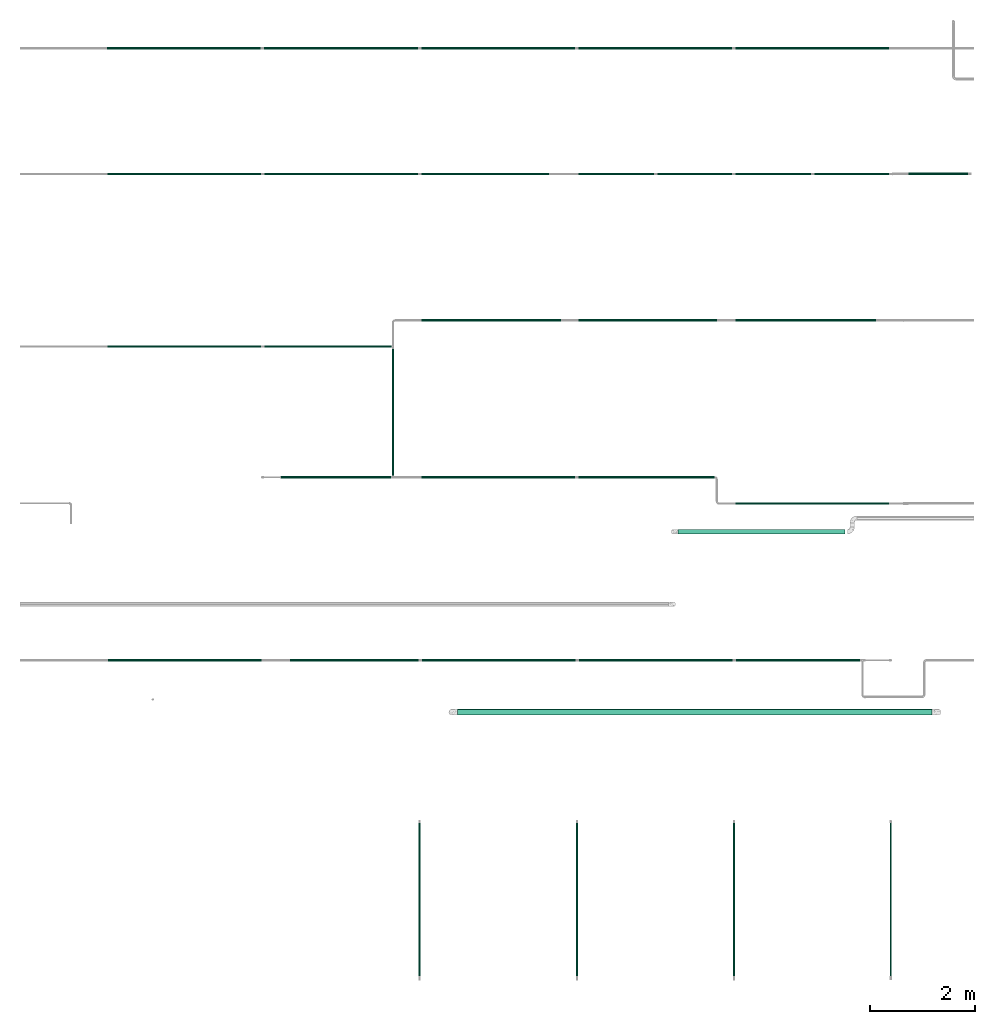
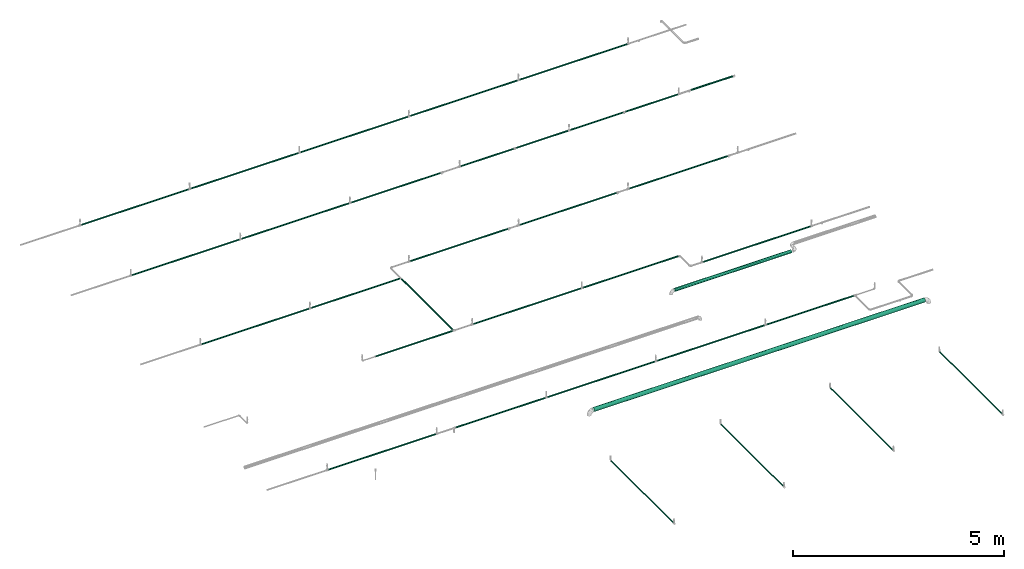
# One storey, part 1 of 94: 34 flow segments.
"""IFC2X3 building model written with IfcOpenShell, lengths in millimetres."""

from ifc_helpers import new_model, entity, si_unit, converted_unit, derived_unit, direction, frame, origin_with_axes, origin_2d_with_axis, place, context, subcontext, project, spatial, hollow_circle, extrude, source, transform, mapped, type_object, element, save


model = new_model("IFC2X3")

# Units and contexts
model_context = context("Model", 3, precision=0.01, world=frame((0.0, 4.29681676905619e-09, 0.0)), true_north=direction((4.01073788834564e-13, 1.0)))
plan_context = context("Plan", 3, precision=0.01, world=frame((0.0, 4.29681676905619e-09, 0.0)), true_north=direction((4.01073788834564e-13, 1.0)))
body_context = subcontext(model_context, "Body", "Model", "MODEL_VIEW")
ifc_project = project(units=[converted_unit("PLANEANGLEUNIT", "DEGREE", entity("IfcPositiveLengthMeasure", 0.0174532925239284), si_unit("PLANEANGLEUNIT", "RADIAN"), dimensions=[0, 0, 0, 0, 0, 0, 0]), si_unit("AREAUNIT", "SQUARE_METRE"), si_unit("LENGTHUNIT", "METRE", prefix="MILLI"), si_unit("MASSUNIT", "GRAM", prefix="KILO"), si_unit("POWERUNIT", "WATT"), si_unit("PRESSUREUNIT", "PASCAL"), si_unit("FORCEUNIT", "NEWTON", prefix="KILO"), si_unit("ELECTRICCURRENTUNIT", "AMPERE"), si_unit("THERMODYNAMICTEMPERATUREUNIT", "DEGREE_CELSIUS"), si_unit("TIMEUNIT", "SECOND"), si_unit("VOLUMEUNIT", "CUBIC_METRE"), derived_unit("LINEARVELOCITYUNIT", [(si_unit("LENGTHUNIT", "METRE"), 1), (si_unit("TIMEUNIT", "SECOND"), -1)]), derived_unit("VOLUMETRICFLOWRATEUNIT", [(si_unit("VOLUMEUNIT", "CUBIC_METRE"), 1), (si_unit("TIMEUNIT", "SECOND"), -1)]), derived_unit("THERMALTRANSMITTANCEUNIT", [(si_unit("POWERUNIT", "WATT"), 1), (si_unit("THERMODYNAMICTEMPERATUREUNIT", "KELVIN"), -1), (si_unit("AREAUNIT", "SQUARE_METRE"), -1)])], contexts=[model_context, plan_context])

# Site, building, storey
site_placement = place(None, frame((0.0, -4.29681676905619e-09, 0.0), z_axis=(0.0, 0.0, 1.0), x_axis=(1.0, 0.0, 0.0)))
site = spatial("IfcSite", under=ifc_project, at=site_placement, CompositionType="ELEMENT")
building_placement = place(site_placement, frame((0.0, 4.29681676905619e-09, 0.0), z_axis=(0.0, 0.0, 1.0), x_axis=(1.0, 0.0, 0.0)))
building = spatial("IfcBuilding", under=site, at=building_placement, Name="mc-building", CompositionType="ELEMENT")
storey_placement = place(building_placement, frame((0.0, 0.0, 200300.0), z_axis=(0.0, 0.0, 1.0), x_axis=(1.0, 0.0, 0.0)))
storey = spatial("IfcBuildingStorey", under=building, at=storey_placement, Name="Nivå C", CompositionType="ELEMENT", Elevation=200300.0)

# Flow segments
pipe_segment_type = type_object("IfcPipeSegmentType", Name="Stålrør normaltykke", PredefinedType="RIGIDSEGMENT")
shared_shape_1 = source(origin_with_axes(), body_context, "Body", "SweptSolid", [
    extrude(hollow_circle(Radius=16.9, WallThickness=2.0, at=origin_2d_with_axis()), frame((0.0, 0.0, 0.0), z_axis=(1.0, 0.0, 0.0), x_axis=(0.0, 1.0, 0.0)), (0.0, 0.0, 1.0), 2937.4),
])
for number, where, z_axis, x_axis in (
    (1, (530500.0, 403899.39532, 2900.0), (0.0, 0.0, 1.0), (0.0, -1.0, 0.0)),
    (2, (527508.12395, 403899.39532, 2900.0), (0.0, 0.0, 1.0), (0.0, -1.0, 0.0)),
    (3, (524508.12395, 403899.39532, 2900.0), (0.0, 0.0, 1.0), (0.0, -1.0, 0.0)),
    (4, (521496.81783, 403899.39532, 2900.0), (0.0, 0.0, 1.0), (0.0, -1.0, 0.0)),
):
    element("IfcFlowSegment", number, at=place(storey_placement, frame(where, z_axis=z_axis, x_axis=x_axis)), inside=storey, type_object=pipe_segment_type, Name="Stålrør normaltykke", context=body_context, shape_type="MappedRepresentation", body=[
        mapped(shared_shape_1, transform((0.0, 0.0, 0.0), scale=1.0)),
    ])
shared_shape_2 = source(origin_with_axes(), body_context, "Body", "SweptSolid", [
    extrude(hollow_circle(Radius=21.2, WallThickness=2.0, at=origin_2d_with_axis()), frame((0.0, 0.0, 0.0), z_axis=(1.0, 0.0, 0.0), x_axis=(0.0, 1.0, 0.0)), (0.0, 0.0, 1.0), 2376.3),
])
flow_segment_1_placement = place(storey_placement, frame((527542.52873, 407003.74497, 2850.0), z_axis=(0.0, 0.0, 1.0), x_axis=(1.0, 0.0, 0.0)))
element("IfcFlowSegment", 5, at=flow_segment_1_placement, inside=storey, type_object=pipe_segment_type, Name="Stålrør normaltykke", context=body_context, shape_type="MappedRepresentation", body=[
    mapped(shared_shape_2, transform((0.0, 0.0, 0.0), scale=1.0)),
])
shared_shape_3 = source(origin_with_axes(), body_context, "Body", "SweptSolid", [
    extrude(hollow_circle(Radius=57.1, WallThickness=2.0, at=origin_2d_with_axis()), frame((0.0, 0.0, 0.0), z_axis=(1.0, 0.0, 0.0), x_axis=(0.0, 1.0, 0.0)), (0.0, 0.0, 1.0), 9067.1),
])
flow_segment_2_placement = place(storey_placement, frame((522226.67149, 406012.65154, 2850.0), z_axis=(0.0, 0.0, 1.0), x_axis=(1.0, 0.0, 0.0)))
element("IfcFlowSegment", 6, at=flow_segment_2_placement, inside=storey, type_object=pipe_segment_type, Name="Stålrør normaltykke", context=body_context, shape_type="MappedRepresentation", body=[
    mapped(shared_shape_3, transform((0.0, 0.0, 0.0), scale=1.0)),
])
shared_shape_4 = source(origin_with_axes(), body_context, "Body", "SweptSolid", [
    extrude(hollow_circle(Radius=21.2, WallThickness=2.0, at=origin_2d_with_axis()), frame((0.0, 0.0, 0.0), z_axis=(1.0, 0.0, 0.0), x_axis=(0.0, 1.0, 0.0)), (0.0, 0.0, 1.0), 2937.4),
])
for number, where, z_axis, x_axis in (
    (7, (530469.32395, 418699.60987, 2850.0), (0.0, 0.0, 1.0), (-1.0, 0.0, 0.0)),
    (8, (521464.32395, 418699.60987, 2850.0), (0.0, 0.0, 1.0), (-1.0, 0.0, 0.0)),
):
    element("IfcFlowSegment", number, at=place(storey_placement, frame(where, z_axis=z_axis, x_axis=x_axis)), inside=storey, type_object=pipe_segment_type, Name="Stålrør normaltykke", context=body_context, shape_type="MappedRepresentation", body=[
        mapped(shared_shape_4, transform((0.0, 0.0, 0.0), scale=1.0)),
    ])
shared_shape_5 = source(origin_with_axes(), body_context, "Body", "SweptSolid", [
    extrude(hollow_circle(Radius=21.2, WallThickness=2.0, at=origin_2d_with_axis()), frame((0.0, 0.0, 0.0), z_axis=(1.0, 0.0, 0.0), x_axis=(0.0, 1.0, 0.0)), (0.0, 0.0, 1.0), 2932.4),
])
for number, where, z_axis, x_axis in (
    (9, (527464.32395, 418699.60987, 2850.0), (0.0, 0.0, 1.0), (-1.0, 0.0, 0.0)),
    (10, (518459.32395, 418699.60987, 2850.0), (0.0, 0.0, 1.0), (-1.0, 0.0, 0.0)),
    (11, (524464.32395, 418699.60987, 2850.0), (0.0, 0.0, 1.0), (-1.0, 0.0, 0.0)),
    (12, (515531.06879, 416298.62756, 2850.0), (0.0, 0.0, 1.0), (1.0, 0.0, 0.0)),
    (13, (518531.06879, 416298.62756, 2850.0), (0.0, 0.0, 1.0), (1.0, 0.0, 0.0)),
    (14, (515531.06879, 412998.99053, 2850.0), (0.0, 0.0, 1.0), (1.0, 0.0, 0.0)),
    (15, (527534.13534, 410000.1625, 2850.0), (0.0, 0.0, 1.0), (1.0, 0.0, 0.0)),
    (16, (521532.47937, 410500.1625, 2850.0), (0.0, 0.0, 1.0), (1.0, 0.0, 0.0)),
    (17, (515542.52873, 407003.74497, 2850.0), (0.0, 0.0, 1.0), (1.0, 0.0, 0.0)),
    (18, (524542.52873, 407003.74497, 2850.0), (0.0, 0.0, 1.0), (1.0, 0.0, 0.0)),
    (19, (521542.52873, 407003.74497, 2850.0), (0.0, 0.0, 1.0), (1.0, 0.0, 0.0)),
):
    element("IfcFlowSegment", number, at=place(storey_placement, frame(where, z_axis=z_axis, x_axis=x_axis)), inside=storey, type_object=pipe_segment_type, Name="Stålrør normaltykke", context=body_context, shape_type="MappedRepresentation", body=[
        mapped(shared_shape_5, transform((0.0, 0.0, 0.0), scale=1.0)),
    ])
shared_shape_6 = source(origin_with_axes(), body_context, "Body", "SweptSolid", [
    extrude(hollow_circle(Radius=24.1, WallThickness=2.0, at=origin_2d_with_axis()), frame((0.0, 0.0, 0.0), z_axis=(1.0, 0.0, 0.0), x_axis=(0.0, 1.0, 0.0)), (0.0, 0.0, 1.0), 1130.1),
])
flow_segment_3_placement = place(storey_placement, frame((530843.33912, 416298.62756, 2850.0), z_axis=(0.0, 0.0, 1.0), x_axis=(1.0, 0.0, 0.0)))
element("IfcFlowSegment", 20, at=flow_segment_3_placement, inside=storey, type_object=pipe_segment_type, Name="Stålrør normaltykke", context=body_context, shape_type="MappedRepresentation", body=[
    mapped(shared_shape_6, transform((0.0, 0.0, 0.0), scale=1.0)),
])
shared_shape_7 = source(origin_with_axes(), body_context, "Body", "SweptSolid", [
    extrude(hollow_circle(Radius=21.2, WallThickness=2.0, at=origin_2d_with_axis()), frame((0.0, 0.0, 0.0), z_axis=(1.0, 0.0, 0.0), x_axis=(0.0, 1.0, 0.0)), (0.0, 0.0, 1.0), 1422.4),
])
flow_segment_4_placement = place(storey_placement, frame((526041.06147, 416298.62756, 2850.0), z_axis=(0.0, 0.0, 1.0), x_axis=(1.0, 0.0, 0.0)))
element("IfcFlowSegment", 21, at=flow_segment_4_placement, inside=storey, type_object=pipe_segment_type, Name="Stålrør normaltykke", context=body_context, shape_type="MappedRepresentation", body=[
    mapped(shared_shape_7, transform((0.0, 0.0, 0.0), scale=1.0)),
])
shared_shape_8 = source(origin_with_axes(), body_context, "Body", "SweptSolid", [
    extrude(hollow_circle(Radius=21.2, WallThickness=2.0, at=origin_2d_with_axis()), frame((0.0, 0.0, 0.0), z_axis=(1.0, 0.0, 0.0), x_axis=(0.0, 1.0, 0.0)), (0.0, 0.0, 1.0), 1427.4),
])
flow_segment_5_placement = place(storey_placement, frame((529041.06147, 416298.62756, 2850.0), z_axis=(0.0, 0.0, 1.0), x_axis=(1.0, 0.0, 0.0)))
element("IfcFlowSegment", 22, at=flow_segment_5_placement, inside=storey, type_object=pipe_segment_type, Name="Stålrør normaltykke", context=body_context, shape_type="MappedRepresentation", body=[
    mapped(shared_shape_8, transform((0.0, 0.0, 0.0), scale=1.0)),
])
shared_shape_9 = source(origin_with_axes(), body_context, "Body", "SweptSolid", [
    extrude(hollow_circle(Radius=21.2, WallThickness=2.0, at=origin_2d_with_axis()), frame((0.0, 0.0, 0.0), z_axis=(1.0, 0.0, 0.0), x_axis=(0.0, 1.0, 0.0)), (0.0, 0.0, 1.0), 2442.4),
])
flow_segment_6_placement = place(storey_placement, frame((521531.06879, 416298.62756, 2850.0), z_axis=(0.0, 0.0, 1.0), x_axis=(1.0, 0.0, 0.0)))
element("IfcFlowSegment", 23, at=flow_segment_6_placement, inside=storey, type_object=pipe_segment_type, Name="Stålrør normaltykke", context=body_context, shape_type="MappedRepresentation", body=[
    mapped(shared_shape_9, transform((0.0, 0.0, 0.0), scale=1.0)),
])
shared_shape_10 = source(origin_with_axes(), body_context, "Body", "SweptSolid", [
    extrude(hollow_circle(Radius=21.2, WallThickness=2.0, at=origin_2d_with_axis()), frame((0.0, 0.0, 0.0), z_axis=(1.0, 0.0, 0.0), x_axis=(0.0, 1.0, 0.0)), (0.0, 0.0, 1.0), 1437.4),
])
flow_segment_7_placement = place(storey_placement, frame((524536.06879, 416298.62756, 2850.0), z_axis=(0.0, 0.0, 1.0), x_axis=(1.0, 0.0, 0.0)))
element("IfcFlowSegment", 24, at=flow_segment_7_placement, inside=storey, type_object=pipe_segment_type, Name="Stålrør normaltykke", context=body_context, shape_type="MappedRepresentation", body=[
    mapped(shared_shape_10, transform((0.0, 0.0, 0.0), scale=1.0)),
])
shared_shape_11 = source(origin_with_axes(), body_context, "Body", "SweptSolid", [
    extrude(hollow_circle(Radius=21.2, WallThickness=2.0, at=origin_2d_with_axis()), frame((0.0, 0.0, 0.0), z_axis=(1.0, 0.0, 0.0), x_axis=(0.0, 1.0, 0.0)), (0.0, 0.0, 1.0), 1442.4),
])
flow_segment_8_placement = place(storey_placement, frame((527531.06879, 416298.62756, 2850.0), z_axis=(0.0, 0.0, 1.0), x_axis=(1.0, 0.0, 0.0)))
element("IfcFlowSegment", 25, at=flow_segment_8_placement, inside=storey, type_object=pipe_segment_type, Name="Stålrør normaltykke", context=body_context, shape_type="MappedRepresentation", body=[
    mapped(shared_shape_11, transform((0.0, 0.0, 0.0), scale=1.0)),
])
shared_shape_12 = source(origin_with_axes(), body_context, "Body", "SweptSolid", [
    extrude(hollow_circle(Radius=21.2, WallThickness=2.0, at=origin_2d_with_axis()), frame((0.0, 0.0, 0.0), z_axis=(1.0, 0.0, 0.0), x_axis=(0.0, 1.0, 0.0)), (0.0, 0.0, 1.0), 2428.2),
])
flow_segment_9_placement = place(storey_placement, frame((518531.06879, 412998.99053, 2850.0), z_axis=(0.0, 0.0, 1.0), x_axis=(1.0, 0.0, 0.0)))
element("IfcFlowSegment", 26, at=flow_segment_9_placement, inside=storey, type_object=pipe_segment_type, Name="Stålrør normaltykke", context=body_context, shape_type="MappedRepresentation", body=[
    mapped(shared_shape_12, transform((0.0, 0.0, 0.0), scale=1.0)),
])
shared_shape_13 = source(origin_with_axes(), body_context, "Body", "SweptSolid", [
    extrude(hollow_circle(Radius=21.2, WallThickness=2.0, at=origin_2d_with_axis()), frame((0.0, 0.0, 0.0), z_axis=(1.0, 0.0, 0.0), x_axis=(0.0, 1.0, 0.0)), (0.0, 0.0, 1.0), 2665.9),
])
flow_segment_10_placement = place(storey_placement, frame((521531.06879, 413500.1625, 2850.0), z_axis=(0.0, 0.0, 1.0), x_axis=(1.0, 0.0, 0.0)))
element("IfcFlowSegment", 27, at=flow_segment_10_placement, inside=storey, type_object=pipe_segment_type, Name="Stålrør normaltykke", context=body_context, shape_type="MappedRepresentation", body=[
    mapped(shared_shape_13, transform((0.0, 0.0, 0.0), scale=1.0)),
])
shared_shape_14 = source(origin_with_axes(), body_context, "Body", "SweptSolid", [
    extrude(hollow_circle(Radius=21.2, WallThickness=2.0, at=origin_2d_with_axis()), frame((0.0, 0.0, 0.0), z_axis=(1.0, 0.0, 0.0), x_axis=(0.0, 1.0, 0.0)), (0.0, 0.0, 1.0), 2641.6),
])
flow_segment_11_placement = place(storey_placement, frame((524536.06879, 413500.1625, 2850.0), z_axis=(0.0, 0.0, 1.0), x_axis=(1.0, 0.0, 0.0)))
element("IfcFlowSegment", 28, at=flow_segment_11_placement, inside=storey, type_object=pipe_segment_type, Name="Stålrør normaltykke", context=body_context, shape_type="MappedRepresentation", body=[
    mapped(shared_shape_14, transform((0.0, 0.0, 0.0), scale=1.0)),
])
shared_shape_15 = source(origin_with_axes(), body_context, "Body", "SweptSolid", [
    extrude(hollow_circle(Radius=21.2, WallThickness=2.0, at=origin_2d_with_axis()), frame((0.0, 0.0, 0.0), z_axis=(1.0, 0.0, 0.0), x_axis=(0.0, 1.0, 0.0)), (0.0, 0.0, 1.0), 2688.9),
])
flow_segment_12_placement = place(storey_placement, frame((527531.06879, 413500.1625, 2850.0), z_axis=(0.0, 0.0, 1.0), x_axis=(1.0, 0.0, 0.0)))
element("IfcFlowSegment", 29, at=flow_segment_12_placement, inside=storey, type_object=pipe_segment_type, Name="Stålrør normaltykke", context=body_context, shape_type="MappedRepresentation", body=[
    mapped(shared_shape_15, transform((0.0, 0.0, 0.0), scale=1.0)),
])
shared_shape_16 = source(origin_with_axes(), body_context, "Body", "SweptSolid", [
    extrude(hollow_circle(Radius=21.2, WallThickness=2.0, at=origin_2d_with_axis()), frame((0.0, 0.0, 0.0), z_axis=(1.0, 0.0, 0.0), x_axis=(0.0, 1.0, 0.0)), (0.0, 0.0, 1.0), 2424.6),
])
flow_segment_13_placement = place(storey_placement, frame((520991.06879, 412956.59053, 2850.0), z_axis=(0.0, 0.0, 1.0), x_axis=(0.0, -1.0, 0.0)))
element("IfcFlowSegment", 30, at=flow_segment_13_placement, inside=storey, type_object=pipe_segment_type, Name="Stålrør normaltykke", context=body_context, shape_type="MappedRepresentation", body=[
    mapped(shared_shape_16, transform((0.0, 0.0, 0.0), scale=1.0)),
])
shared_shape_17 = source(origin_with_axes(), body_context, "Body", "SweptSolid", [
    extrude(hollow_circle(Radius=21.2, WallThickness=2.0, at=origin_2d_with_axis()), frame((0.0, 0.0, 0.0), z_axis=(1.0, 0.0, 0.0), x_axis=(0.0, 1.0, 0.0)), (0.0, 0.0, 1.0), 2101.5),
])
flow_segment_14_placement = place(storey_placement, frame((518847.13097, 410500.1625, 2850.0), z_axis=(0.0, 0.0, 1.0), x_axis=(1.0, 0.0, 0.0)))
element("IfcFlowSegment", 31, at=flow_segment_14_placement, inside=storey, type_object=pipe_segment_type, Name="Stålrør normaltykke", context=body_context, shape_type="MappedRepresentation", body=[
    mapped(shared_shape_17, transform((0.0, 0.0, 0.0), scale=1.0)),
])
shared_shape_18 = source(origin_with_axes(), body_context, "Body", "SweptSolid", [
    extrude(hollow_circle(Radius=21.2, WallThickness=2.0, at=origin_2d_with_axis()), frame((0.0, 0.0, 0.0), z_axis=(1.0, 0.0, 0.0), x_axis=(0.0, 1.0, 0.0)), (0.0, 0.0, 1.0), 2602.3),
])
flow_segment_15_placement = place(storey_placement, frame((524532.47937, 410500.1625, 2850.0), z_axis=(0.0, 0.0, 1.0), x_axis=(1.0, 0.0, 0.0)))
element("IfcFlowSegment", 32, at=flow_segment_15_placement, inside=storey, type_object=pipe_segment_type, Name="Stålrør normaltykke", context=body_context, shape_type="MappedRepresentation", body=[
    mapped(shared_shape_18, transform((0.0, 0.0, 0.0), scale=1.0)),
])
shared_shape_19 = source(origin_with_axes(), body_context, "Body", "SweptSolid", [
    extrude(hollow_circle(Radius=21.2, WallThickness=2.0, at=origin_2d_with_axis()), frame((0.0, 0.0, 0.0), z_axis=(1.0, 0.0, 0.0), x_axis=(0.0, 1.0, 0.0)), (0.0, 0.0, 1.0), 2448.4),
])
flow_segment_16_placement = place(storey_placement, frame((519026.56964, 407003.74497, 2850.0), z_axis=(0.0, 0.0, 1.0), x_axis=(1.0, 0.0, 0.0)))
element("IfcFlowSegment", 33, at=flow_segment_16_placement, inside=storey, type_object=pipe_segment_type, Name="Stålrør normaltykke", context=body_context, shape_type="MappedRepresentation", body=[
    mapped(shared_shape_19, transform((0.0, 0.0, 0.0), scale=1.0)),
])
shared_shape_20 = source(origin_with_axes(), body_context, "Body", "SweptSolid", [
    extrude(hollow_circle(Radius=44.5, WallThickness=2.0, at=origin_2d_with_axis()), frame((0.0, 0.0, 0.0), z_axis=(1.0, 0.0, 0.0), x_axis=(0.0, 1.0, 0.0)), (0.0, 0.0, 1.0), 3197.0),
])
flow_segment_17_placement = place(storey_placement, frame((526435.06344, 409460.81516, 2750.0), z_axis=(0.0, 0.0, 1.0), x_axis=(1.0, 0.0, 0.0)))
element("IfcFlowSegment", 34, at=flow_segment_17_placement, inside=storey, type_object=pipe_segment_type, Name="Stålrør normaltykke", context=body_context, shape_type="MappedRepresentation", body=[
    mapped(shared_shape_20, transform((0.0, 0.0, 0.0), scale=1.0)),
])

save(model, "model.ifc")
